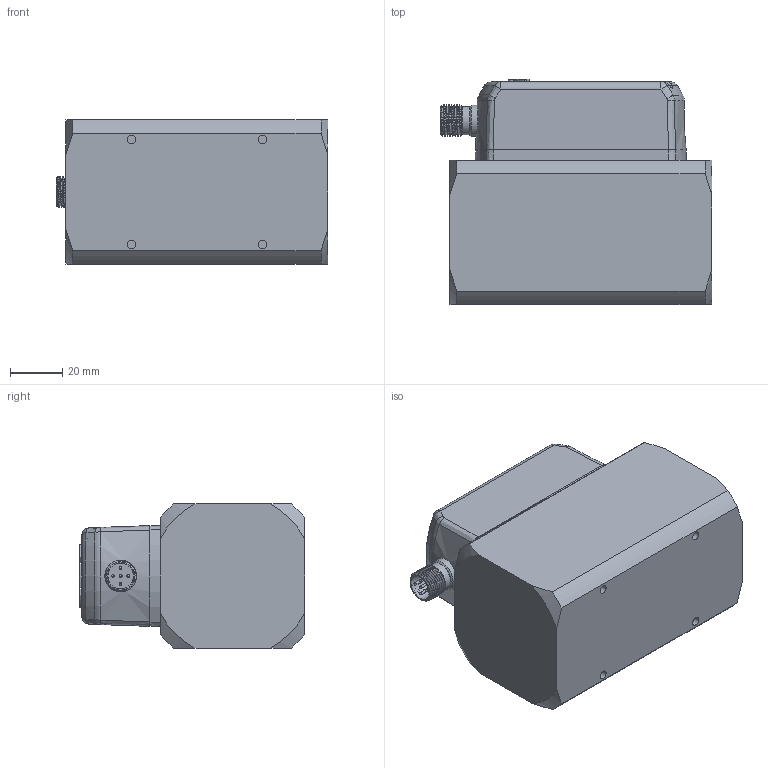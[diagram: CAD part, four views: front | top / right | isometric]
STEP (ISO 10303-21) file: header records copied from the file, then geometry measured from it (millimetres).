
FILE_DESCRIPTION( (''), '2;1');
FILE_NAME( 'QEKH_DN25_female-thread_standard.step', '2025-04-28T16:06:21+08:00', (''), (''), '', '', '');
FILE_SCHEMA (('AUTOMOTIVE_DESIGN { 1 0 10303 214 3 1 1 1 }'));
Length unit declared in the file: millimetre
Products named in the file (1): QEKH DN25_female-thread_standard
Bounding box: 103.71 x 85.9 x 55 mm (x, y, z)
Volume: 399108.3 mm3; surface area: 60338 mm2
Topology: 9 solids, 12 shells, 1088 faces, 2870 edges, 1876 vertices
Faces by surface type: plane 537, extrusion 239, cylinder 177, cone 50, bspline 44, torus 32, sphere 9
Full cylindrical faces by diameter (mm): 1 x10, 2.6 x4, 2.7 x5, 3.1 x1, 3.3 x4, 3.5 x7, 4.5 x4, 7 x2, 9.8 x2, 10.8 x1, 11.992 x2, 12 x2
Entity records: 37596 total; most frequent: CARTESIAN_POINT 11827, ORIENTED_EDGE 5548, DIRECTION 4425, EDGE_CURVE 2774, VECTOR 1867, VERTEX_POINT 1844, LINE 1628, AXIS2_PLACEMENT_3D 1279
